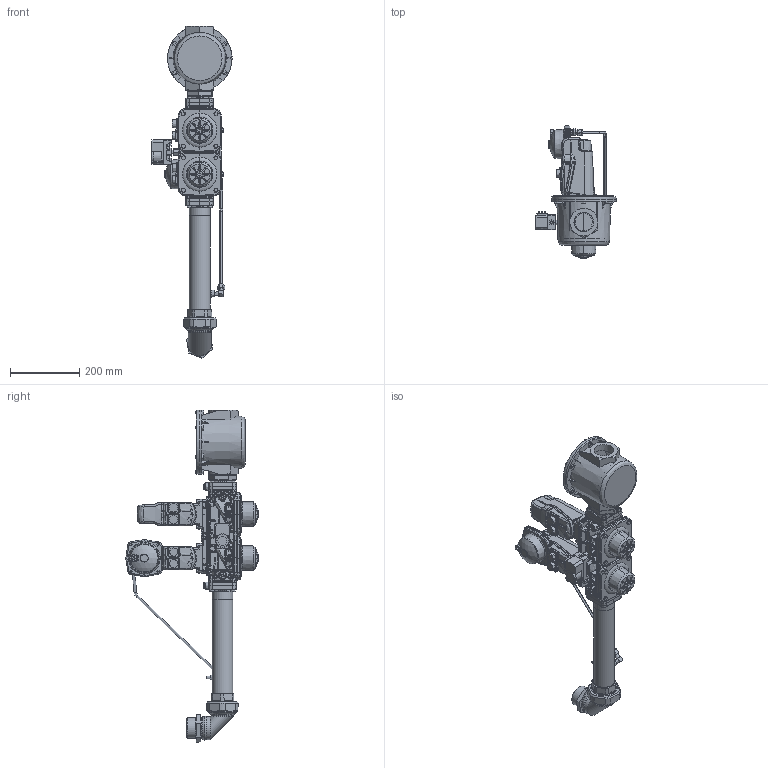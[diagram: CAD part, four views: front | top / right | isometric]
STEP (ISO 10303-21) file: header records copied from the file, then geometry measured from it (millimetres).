
FILE_DESCRIPTION (( 'STEP AP203' ), '1' );
FILE_NAME ('19990524-110236.step', '2016-12-15T10:41:12', ( '' ), ( '' ), 'SwSTEP 2.0', 'SolidWorks 2016', '' );
FILE_SCHEMA (( 'CONFIG_CONTROL_DESIGN' ));
Products named in the file (18): 4987-01486; 0005090188-04396; 0005040068-101251; 0005090231-01440; 23867-01479; 0005090232-01439; 18681-103294; 0006020270-01481; 0005180006-102398; 0006020262-103298; 31483-01527; 19990524-110236; 30282-102826; 0010010014-103297-AUTO; 23532-103302; 3793-01437; 0010060030-01485; 0010010014-103296
Assembly tree (18 placements, depth 3):
  19990524-110236
    31483-01527
    0010010014-103296
      0010010014-103297-AUTO
      3793-01437
    0005090188-04396
    0005090231-01440
    0005090232-01439
    0006020270-01481
    0006020262-103298
    30282-102826  x2
    23532-103302
    0010060030-01485
    4987-01486
    0005040068-101251
    23867-01479
    18681-103294
    0005180006-102398
Bounding box: 231.17 x 381.8 x 958.01 mm (x, y, z)
Volume: 4002851.2 mm3; surface area: 1023498.2 mm2
Topology: 32 solids, 37 shells, 8790 faces, 21505 edges, 12786 vertices
Faces by surface type: bspline 3110, plane 2405, cylinder 1985, torus 725, sphere 344, cone 221
Full cylindrical faces by diameter (mm): 1 x1, 1.5 x2, 2 x1, 3 x2, 3.1 x1, 4 x4, 4.3 x4, 4.35 x6, 4.351 x2, 4.5 x1, 4.8 x1, 5 x15, 5.4 x1, 5.9 x1, 6 x7, 6.2 x1, 6.5 x1, 6.65 x8, 7.76 x8, 8 x20, 8.8 x1, 9 x18, 9.728 x1, 11 x1, 11.5 x2, 11.55 x1, 11.8 x2, 12 x21, 12.5 x2, 13 x20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
Entity records: 394213 total; most frequent: CARTESIAN_POINT 221597, ORIENTED_EDGE 39944, DIRECTION 27736, EDGE_CURVE 20215, VERTEX_POINT 12364, AXIS2_PLACEMENT_3D 10576, EDGE_LOOP 9689, FACE_OUTER_BOUND 9186
